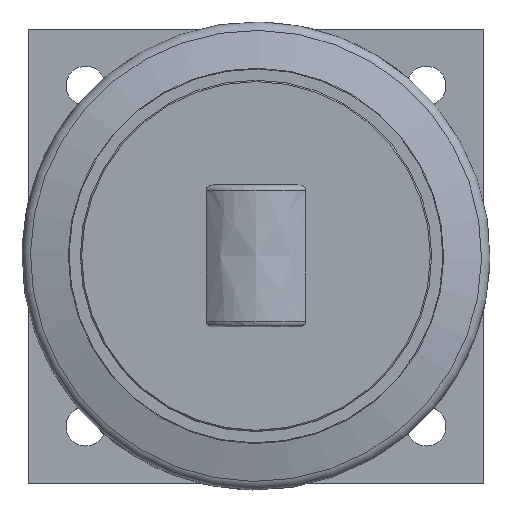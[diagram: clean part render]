
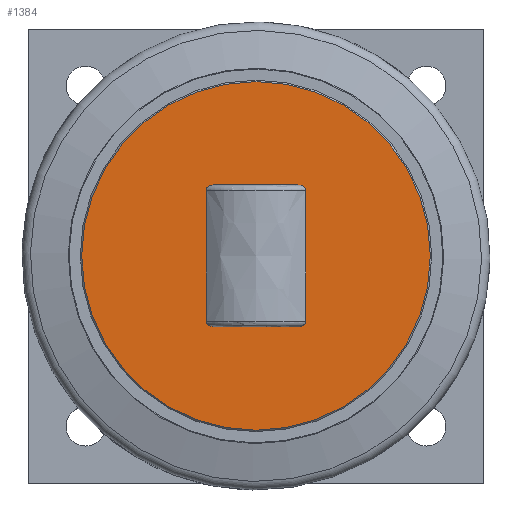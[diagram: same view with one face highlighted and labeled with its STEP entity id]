
A CAD part, top view. The second image highlights one B-rep face of the part: STEP entity #1384.
In plain terms, the highlighted planar face has unit normal (0, 0, 1).
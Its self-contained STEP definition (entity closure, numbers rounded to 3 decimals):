
#1147=CARTESIAN_POINT('',(-126.878,-24.73,46.03));
#1148=VERTEX_POINT('',#1147);
#1149=CARTESIAN_POINT('',(-129.832,-26.699,46.03));
#1150=VERTEX_POINT('',#1149);
#1151=CARTESIAN_POINT('',(-126.878,-24.73,46.03));
#1152=CARTESIAN_POINT('',(-126.883,-24.941,46.03));
#1153=CARTESIAN_POINT('',(-126.946,-25.18,46.03));
#1154=CARTESIAN_POINT('',(-127.157,-25.6,46.03));
#1155=CARTESIAN_POINT('',(-127.362,-25.838,46.03));
#1156=CARTESIAN_POINT('',(-127.824,-26.212,46.03));
#1157=CARTESIAN_POINT('',(-128.179,-26.391,46.03));
#1158=CARTESIAN_POINT('',(-128.899,-26.629,46.03));
#1159=CARTESIAN_POINT('',(-129.406,-26.699,46.03));
#1160=CARTESIAN_POINT('',(-129.832,-26.699,46.03));
#1161=B_SPLINE_CURVE_WITH_KNOTS('',3,(#1151,#1152,#1153,#1154,#1155,#1156,#1157,#1158,#1159,#1160),.UNSPECIFIED.,.F.,.U.,(4,2,2,2,4),(0.003,0.065,0.144,0.244,0.371),.UNSPECIFIED.);
#1162=EDGE_CURVE('',#1148,#1150,#1161,.T.);
#1164=CARTESIAN_POINT('',(-162.088,-24.73,46.03));
#1165=VERTEX_POINT('',#1164);
#1173=CARTESIAN_POINT('',(-159.134,-26.699,46.03));
#1174=VERTEX_POINT('',#1173);
#1175=CARTESIAN_POINT('',(-159.134,-26.699,46.03));
#1176=CARTESIAN_POINT('',(-159.561,-26.699,46.03));
#1177=CARTESIAN_POINT('',(-160.067,-26.629,46.03));
#1178=CARTESIAN_POINT('',(-160.787,-26.391,46.03));
#1179=CARTESIAN_POINT('',(-161.143,-26.212,46.03));
#1180=CARTESIAN_POINT('',(-161.604,-25.838,46.03));
#1181=CARTESIAN_POINT('',(-161.81,-25.6,46.03));
#1182=CARTESIAN_POINT('',(-162.02,-25.18,46.03));
#1183=CARTESIAN_POINT('',(-162.084,-24.941,46.03));
#1184=CARTESIAN_POINT('',(-162.088,-24.73,46.03));
#1185=B_SPLINE_CURVE_WITH_KNOTS('',3,(#1175,#1176,#1177,#1178,#1179,#1180,#1181,#1182,#1183,#1184),.UNSPECIFIED.,.F.,.U.,(4,2,2,2,4),(1.173,1.301,1.401,1.479,1.542),.UNSPECIFIED.);
#1186=EDGE_CURVE('',#1174,#1165,#1185,.T.);
#1221=CARTESIAN_POINT('',(-126.878,21.331,46.03));
#1222=VERTEX_POINT('',#1221);
#1223=CARTESIAN_POINT('',(-126.878,21.331,46.03));
#1224=CARTESIAN_POINT('',(-126.707,13.424,46.03));
#1225=CARTESIAN_POINT('',(-126.63,5.696,46.03));
#1226=CARTESIAN_POINT('',(-126.63,-9.095,46.03));
#1227=CARTESIAN_POINT('',(-126.707,-16.823,46.03));
#1228=CARTESIAN_POINT('',(-126.878,-24.73,46.03));
#1229=B_SPLINE_CURVE_WITH_KNOTS('',3,(#1223,#1224,#1225,#1226,#1227,#1228),.UNSPECIFIED.,.F.,.U.,(4,2,4),(40.771,42.99,45.208),.UNSPECIFIED.);
#1230=EDGE_CURVE('',#1222,#1148,#1229,.T.);
#1232=CARTESIAN_POINT('',(-162.088,21.331,46.03));
#1233=VERTEX_POINT('',#1232);
#1241=CARTESIAN_POINT('',(-162.088,-24.73,46.03));
#1242=CARTESIAN_POINT('',(-162.26,-16.823,46.03));
#1243=CARTESIAN_POINT('',(-162.337,-9.095,46.03));
#1244=CARTESIAN_POINT('',(-162.337,5.696,46.03));
#1245=CARTESIAN_POINT('',(-162.26,13.424,46.03));
#1246=CARTESIAN_POINT('',(-162.088,21.331,46.03));
#1247=B_SPLINE_CURVE_WITH_KNOTS('',3,(#1241,#1242,#1243,#1244,#1245,#1246),.UNSPECIFIED.,.F.,.U.,(4,2,4),(12.111,14.33,16.549),.UNSPECIFIED.);
#1248=EDGE_CURVE('',#1165,#1233,#1247,.T.);
#1259=CARTESIAN_POINT('',(-129.832,23.301,46.03));
#1260=VERTEX_POINT('',#1259);
#1261=CARTESIAN_POINT('',(-129.832,23.301,46.03));
#1262=CARTESIAN_POINT('',(-129.406,23.301,46.03));
#1263=CARTESIAN_POINT('',(-128.899,23.23,46.03));
#1264=CARTESIAN_POINT('',(-128.179,22.992,46.03));
#1265=CARTESIAN_POINT('',(-127.824,22.813,46.03));
#1266=CARTESIAN_POINT('',(-127.362,22.439,46.03));
#1267=CARTESIAN_POINT('',(-127.157,22.201,46.03));
#1268=CARTESIAN_POINT('',(-126.946,21.781,46.03));
#1269=CARTESIAN_POINT('',(-126.883,21.542,46.03));
#1270=CARTESIAN_POINT('',(-126.878,21.331,46.03));
#1271=B_SPLINE_CURVE_WITH_KNOTS('',3,(#1261,#1262,#1263,#1264,#1265,#1266,#1267,#1268,#1269,#1270),.UNSPECIFIED.,.F.,.U.,(4,2,2,2,4),(1.175,1.303,1.403,1.481,1.544),.UNSPECIFIED.);
#1272=EDGE_CURVE('',#1260,#1222,#1271,.T.);
#1274=CARTESIAN_POINT('',(-159.134,23.301,46.03));
#1275=VERTEX_POINT('',#1274);
#1283=CARTESIAN_POINT('',(-162.088,21.331,46.03));
#1284=CARTESIAN_POINT('',(-162.084,21.542,46.03));
#1285=CARTESIAN_POINT('',(-162.02,21.781,46.03));
#1286=CARTESIAN_POINT('',(-161.81,22.201,46.03));
#1287=CARTESIAN_POINT('',(-161.604,22.439,46.03));
#1288=CARTESIAN_POINT('',(-161.143,22.813,46.03));
#1289=CARTESIAN_POINT('',(-160.787,22.992,46.03));
#1290=CARTESIAN_POINT('',(-160.067,23.23,46.03));
#1291=CARTESIAN_POINT('',(-159.561,23.301,46.03));
#1292=CARTESIAN_POINT('',(-159.134,23.301,46.03));
#1293=B_SPLINE_CURVE_WITH_KNOTS('',3,(#1283,#1284,#1285,#1286,#1287,#1288,#1289,#1290,#1291,#1292),.UNSPECIFIED.,.F.,.U.,(4,2,2,2,4),(0.003,0.065,0.144,0.244,0.371),.UNSPECIFIED.);
#1294=EDGE_CURVE('',#1233,#1275,#1293,.T.);
#1305=CARTESIAN_POINT('',(-159.134,23.301,46.03));
#1306=DIRECTION('',(1.0,0.0,0.0));
#1307=VECTOR('',#1306,29.302);
#1308=LINE('',#1305,#1307);
#1309=EDGE_CURVE('',#1275,#1260,#1308,.T.);
#1320=CARTESIAN_POINT('',(-129.832,-26.699,46.03));
#1321=DIRECTION('',(-1.0,0.0,0.0));
#1322=VECTOR('',#1321,29.302);
#1323=LINE('',#1320,#1322);
#1324=EDGE_CURVE('',#1150,#1174,#1323,.T.);
#1358=CARTESIAN_POINT('',(-113.533,-1.699,46.03));
#1359=DIRECTION('',(0.,0.,1.0));
#1360=DIRECTION('',(0.,-1.0,0.));
#1361=AXIS2_PLACEMENT_3D('',#1358,#1359,#1360);
#1362=PLANE('',#1361);
#1363=CARTESIAN_POINT('',(-83.083,-1.699,46.03));
#1364=VERTEX_POINT('',#1363);
#1365=CARTESIAN_POINT('',(-144.483,-1.699,46.03));
#1366=DIRECTION('',(0.0,0.,-1.0));
#1367=DIRECTION('',(-1.0,0.0,0.0));
#1368=AXIS2_PLACEMENT_3D('',#1365,#1366,#1367);
#1369=CIRCLE('',#1368,61.4);
#1370=EDGE_CURVE('',#1364,#1364,#1369,.T.);
#1371=ORIENTED_EDGE('',*,*,#1370,.F.);
#1372=EDGE_LOOP('',(#1371));
#1373=FACE_OUTER_BOUND('',#1372,.T.);
#1374=ORIENTED_EDGE('',*,*,#1324,.T.);
#1375=ORIENTED_EDGE('',*,*,#1186,.T.);
#1376=ORIENTED_EDGE('',*,*,#1248,.T.);
#1377=ORIENTED_EDGE('',*,*,#1294,.T.);
#1378=ORIENTED_EDGE('',*,*,#1309,.T.);
#1379=ORIENTED_EDGE('',*,*,#1272,.T.);
#1380=ORIENTED_EDGE('',*,*,#1230,.T.);
#1381=ORIENTED_EDGE('',*,*,#1162,.T.);
#1382=EDGE_LOOP('',(#1374,#1375,#1376,#1377,#1378,#1379,#1380,#1381));
#1383=FACE_BOUND('',#1382,.T.);
#1384=ADVANCED_FACE('',(#1373,#1383),#1362,.T.);
